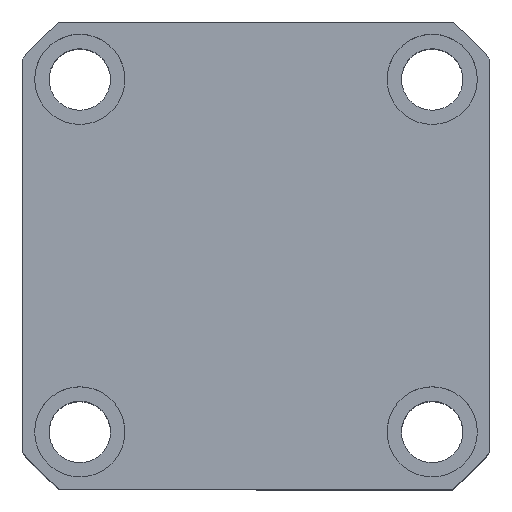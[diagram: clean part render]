
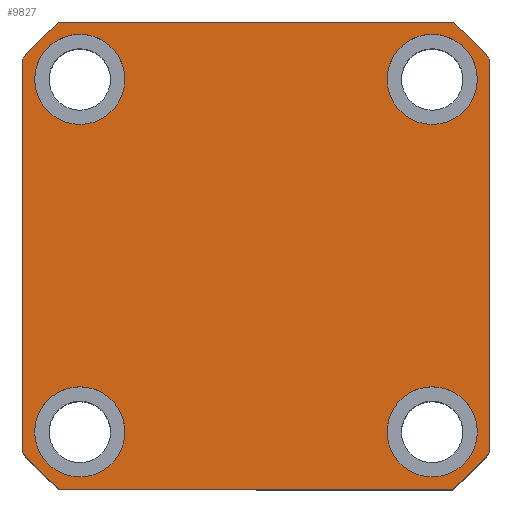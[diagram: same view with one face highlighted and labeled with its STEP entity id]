
A CAD part, top view. The second image highlights one B-rep face of the part: STEP entity #9827.
In plain terms, the highlighted planar face has unit normal (0, 0, 1) as drawn and (0, 0, -1) by its records, which use the part's own axes.
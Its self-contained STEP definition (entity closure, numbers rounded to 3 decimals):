
#103 = EDGE_CURVE ( 'NONE', #14838, #3643, #11317, .T. ) ;
#271 = CIRCLE ( 'NONE', #6012, 11. ) ;
#281 = EDGE_CURVE ( 'NONE', #6183, #4465, #13711, .T. ) ;
#468 = CARTESIAN_POINT ( 'NONE',  ( -57., -57., 0. ) ) ;
#637 = CARTESIAN_POINT ( 'NONE',  ( 43., 43., 0. ) ) ;
#711 = EDGE_CURVE ( 'NONE', #3643, #14838, #3639, .T. ) ;
#1057 = EDGE_LOOP ( 'NONE', ( #10250, #9097 ) ) ;
#1118 = DIRECTION ( 'NONE',  ( 0., 1., 0. ) ) ;
#1142 = CARTESIAN_POINT ( 'NONE',  ( 0., 0., 0. ) ) ;
#1176 = CARTESIAN_POINT ( 'NONE',  ( 57., -47.971, 0. ) ) ;
#1330 = VERTEX_POINT ( 'NONE', #3490 ) ;
#1469 = AXIS2_PLACEMENT_3D ( 'NONE', #8664, #2829, #11055 ) ;
#1606 = AXIS2_PLACEMENT_3D ( 'NONE', #2509, #10730, #3694 ) ;
#1648 = PLANE ( 'NONE',  #1469 ) ;
#1816 = AXIS2_PLACEMENT_3D ( 'NONE', #637, #8878, #1829 ) ;
#1829 = DIRECTION ( 'NONE',  ( -1., 0., 0. ) ) ;
#1845 = FACE_BOUND ( 'NONE', #11732, .T. ) ;
#1908 = VERTEX_POINT ( 'NONE', #8268 ) ;
#1940 = LINE ( 'NONE', #468, #14101 ) ;
#2289 = VERTEX_POINT ( 'NONE', #2360 ) ;
#2304 = CARTESIAN_POINT ( 'NONE',  ( 57., 57., 0. ) ) ;
#2332 = DIRECTION ( 'NONE',  ( 1., 0., 0. ) ) ;
#2360 = CARTESIAN_POINT ( 'NONE',  ( 54., -43., 0. ) ) ;
#2509 = CARTESIAN_POINT ( 'NONE',  ( 0., 0., 0. ) ) ;
#2516 = EDGE_CURVE ( 'NONE', #2289, #4915, #10035, .T. ) ;
#2772 = EDGE_CURVE ( 'NONE', #4915, #2289, #271, .T. ) ;
#2829 = DIRECTION ( 'NONE',  ( 0., 0., 1. ) ) ;
#2867 = CIRCLE ( 'NONE', #3760, 74.5 ) ;
#2953 = DIRECTION ( 'NONE',  ( 1., 0., 0. ) ) ;
#3045 = ORIENTED_EDGE ( 'NONE', *, *, #10835, .F. ) ;
#3185 = CIRCLE ( 'NONE', #3355, 11. ) ;
#3355 = AXIS2_PLACEMENT_3D ( 'NONE', #6967, #15183, #8158 ) ;
#3490 = CARTESIAN_POINT ( 'NONE',  ( 32., 43., 0. ) ) ;
#3600 = CIRCLE ( 'NONE', #1816, 11. ) ;
#3639 = CIRCLE ( 'NONE', #11367, 11. ) ;
#3643 = VERTEX_POINT ( 'NONE', #14434 ) ;
#3652 = AXIS2_PLACEMENT_3D ( 'NONE', #12128, #5093, #13318 ) ;
#3694 = DIRECTION ( 'NONE',  ( 1., 0., 0. ) ) ;
#3760 = AXIS2_PLACEMENT_3D ( 'NONE', #1142, #9385, #2332 ) ;
#4117 = CARTESIAN_POINT ( 'NONE',  ( -32., 43., 0. ) ) ;
#4131 = CARTESIAN_POINT ( 'NONE',  ( -57., 57., 0. ) ) ;
#4269 = EDGE_CURVE ( 'NONE', #13568, #8771, #12027, .T. ) ;
#4384 = ORIENTED_EDGE ( 'NONE', *, *, #14586, .F. ) ;
#4465 = VERTEX_POINT ( 'NONE', #9705 ) ;
#4508 = ORIENTED_EDGE ( 'NONE', *, *, #4269, .F. ) ;
#4587 = AXIS2_PLACEMENT_3D ( 'NONE', #12271, #5233, #13462 ) ;
#4655 = DIRECTION ( 'NONE',  ( 0., 0., 1. ) ) ;
#4754 = ORIENTED_EDGE ( 'NONE', *, *, #9246, .F. ) ;
#4843 = CARTESIAN_POINT ( 'NONE',  ( -43., 43., 0. ) ) ;
#4849 = EDGE_CURVE ( 'NONE', #7813, #8046, #1940, .T. ) ;
#4877 = CIRCLE ( 'NONE', #15252, 11. ) ;
#4882 = CARTESIAN_POINT ( 'NONE',  ( -43., -43., 0. ) ) ;
#4915 = VERTEX_POINT ( 'NONE', #11227 ) ;
#4984 = FACE_BOUND ( 'NONE', #6760, .T. ) ;
#5093 = DIRECTION ( 'NONE',  ( 0., 0., -1. ) ) ;
#5233 = DIRECTION ( 'NONE',  ( 0., 0., -1. ) ) ;
#5349 = FACE_BOUND ( 'NONE', #14457, .T. ) ;
#5471 = DIRECTION ( 'NONE',  ( 0., 0., -1. ) ) ;
#5493 = ORIENTED_EDGE ( 'NONE', *, *, #4849, .F. ) ;
#5571 = EDGE_CURVE ( 'NONE', #8046, #13568, #13901, .T. ) ;
#5807 = VECTOR ( 'NONE', #1118, 1000. ) ;
#6012 = AXIS2_PLACEMENT_3D ( 'NONE', #12505, #5471, #13679 ) ;
#6034 = DIRECTION ( 'NONE',  ( -1., 0., 0. ) ) ;
#6072 = DIRECTION ( 'NONE',  ( -1., 0., 0. ) ) ;
#6183 = VERTEX_POINT ( 'NONE', #9598 ) ;
#6212 = DIRECTION ( 'NONE',  ( 0., 0., -1. ) ) ;
#6428 = EDGE_CURVE ( 'NONE', #1330, #13332, #3600, .T. ) ;
#6627 = DIRECTION ( 'NONE',  ( -1., 0., 0. ) ) ;
#6760 = EDGE_LOOP ( 'NONE', ( #11906, #11717 ) ) ;
#6836 = CIRCLE ( 'NONE', #11417, 74.5 ) ;
#6864 = EDGE_CURVE ( 'NONE', #13332, #1330, #4877, .T. ) ;
#6967 = CARTESIAN_POINT ( 'NONE',  ( -43., 43., 0. ) ) ;
#6971 = CARTESIAN_POINT ( 'NONE',  ( 47.971, -57., 0. ) ) ;
#7050 = DIRECTION ( 'NONE',  ( 0., 0., 1. ) ) ;
#7054 = CARTESIAN_POINT ( 'NONE',  ( -54., 43., 0. ) ) ;
#7651 = ORIENTED_EDGE ( 'NONE', *, *, #11745, .F. ) ;
#7667 = ORIENTED_EDGE ( 'NONE', *, *, #5571, .F. ) ;
#7699 = AXIS2_PLACEMENT_3D ( 'NONE', #4843, #13082, #6034 ) ;
#7813 = VERTEX_POINT ( 'NONE', #8963 ) ;
#7822 = CARTESIAN_POINT ( 'NONE',  ( -57., 57., 0. ) ) ;
#8046 = VERTEX_POINT ( 'NONE', #6971 ) ;
#8158 = DIRECTION ( 'NONE',  ( -1., 0., 0. ) ) ;
#8268 = CARTESIAN_POINT ( 'NONE',  ( -57., -47.971, 0. ) ) ;
#8644 = CIRCLE ( 'NONE', #7699, 11. ) ;
#8664 = CARTESIAN_POINT ( 'NONE',  ( 0., 0., 0. ) ) ;
#8746 = EDGE_LOOP ( 'NONE', ( #4384, #4508, #7667, #5493, #14617, #13305, #3045, #9870 ) ) ;
#8771 = VERTEX_POINT ( 'NONE', #11919 ) ;
#8878 = DIRECTION ( 'NONE',  ( 0., 0., -1. ) ) ;
#8963 = CARTESIAN_POINT ( 'NONE',  ( -47.971, -57., 0. ) ) ;
#9097 = ORIENTED_EDGE ( 'NONE', *, *, #2516, .F. ) ;
#9246 = EDGE_CURVE ( 'NONE', #12791, #13510, #3185, .T. ) ;
#9385 = DIRECTION ( 'NONE',  ( 0., 0., 1. ) ) ;
#9526 = LINE ( 'NONE', #4131, #15034 ) ;
#9598 = CARTESIAN_POINT ( 'NONE',  ( 47.971, 57., 0. ) ) ;
#9705 = CARTESIAN_POINT ( 'NONE',  ( -47.971, 57., 0. ) ) ;
#9827 = ADVANCED_FACE ( 'NONE', ( #4984, #11223, #5349, #1845, #14014 ), #1648, .F. ) ;
#9870 = ORIENTED_EDGE ( 'NONE', *, *, #281, .F. ) ;
#10006 = DIRECTION ( 'NONE',  ( 0., -1., 0. ) ) ;
#10035 = CIRCLE ( 'NONE', #3652, 11. ) ;
#10043 = ORIENTED_EDGE ( 'NONE', *, *, #6864, .F. ) ;
#10250 = ORIENTED_EDGE ( 'NONE', *, *, #2772, .F. ) ;
#10612 = VECTOR ( 'NONE', #6627, 1000. ) ;
#10730 = DIRECTION ( 'NONE',  ( 0., 0., 1. ) ) ;
#10835 = EDGE_CURVE ( 'NONE', #4465, #11517, #6836, .T. ) ;
#11055 = DIRECTION ( 'NONE',  ( 1., 0., 0. ) ) ;
#11223 = FACE_BOUND ( 'NONE', #1057, .T. ) ;
#11227 = CARTESIAN_POINT ( 'NONE',  ( 32., -43., 0. ) ) ;
#11317 = CIRCLE ( 'NONE', #4587, 11. ) ;
#11355 = CARTESIAN_POINT ( 'NONE',  ( -57., 47.971, 0. ) ) ;
#11367 = AXIS2_PLACEMENT_3D ( 'NONE', #4882, #13113, #6072 ) ;
#11417 = AXIS2_PLACEMENT_3D ( 'NONE', #11688, #4655, #12891 ) ;
#11517 = VERTEX_POINT ( 'NONE', #11355 ) ;
#11577 = EDGE_CURVE ( 'NONE', #1908, #7813, #2867, .T. ) ;
#11688 = CARTESIAN_POINT ( 'NONE',  ( 0., 0., 0. ) ) ;
#11717 = ORIENTED_EDGE ( 'NONE', *, *, #103, .F. ) ;
#11732 = EDGE_LOOP ( 'NONE', ( #7651, #4754 ) ) ;
#11745 = EDGE_CURVE ( 'NONE', #13510, #12791, #8644, .T. ) ;
#11906 = ORIENTED_EDGE ( 'NONE', *, *, #711, .F. ) ;
#11919 = CARTESIAN_POINT ( 'NONE',  ( 57., 47.971, 0. ) ) ;
#11956 = CARTESIAN_POINT ( 'NONE',  ( -32., -43., 0. ) ) ;
#12027 = LINE ( 'NONE', #2304, #5807 ) ;
#12050 = ORIENTED_EDGE ( 'NONE', *, *, #6428, .F. ) ;
#12065 = CIRCLE ( 'NONE', #12946, 74.5 ) ;
#12128 = CARTESIAN_POINT ( 'NONE',  ( 43., -43., 0. ) ) ;
#12271 = CARTESIAN_POINT ( 'NONE',  ( -43., -43., 0. ) ) ;
#12505 = CARTESIAN_POINT ( 'NONE',  ( 43., -43., 0. ) ) ;
#12791 = VERTEX_POINT ( 'NONE', #4117 ) ;
#12891 = DIRECTION ( 'NONE',  ( 1., 0., 0. ) ) ;
#12946 = AXIS2_PLACEMENT_3D ( 'NONE', #14079, #7050, #15273 ) ;
#13082 = DIRECTION ( 'NONE',  ( 0., 0., -1. ) ) ;
#13113 = DIRECTION ( 'NONE',  ( 0., 0., -1. ) ) ;
#13254 = CARTESIAN_POINT ( 'NONE',  ( 43., 43., 0. ) ) ;
#13305 = ORIENTED_EDGE ( 'NONE', *, *, #15106, .F. ) ;
#13318 = DIRECTION ( 'NONE',  ( -1., 0., 0. ) ) ;
#13332 = VERTEX_POINT ( 'NONE', #13826 ) ;
#13462 = DIRECTION ( 'NONE',  ( -1., 0., 0. ) ) ;
#13510 = VERTEX_POINT ( 'NONE', #7054 ) ;
#13568 = VERTEX_POINT ( 'NONE', #1176 ) ;
#13679 = DIRECTION ( 'NONE',  ( -1., 0., 0. ) ) ;
#13711 = LINE ( 'NONE', #7822, #10612 ) ;
#13826 = CARTESIAN_POINT ( 'NONE',  ( 54., 43., 0. ) ) ;
#13901 = CIRCLE ( 'NONE', #1606, 74.5 ) ;
#14014 = FACE_OUTER_BOUND ( 'NONE', #8746, .T. ) ;
#14079 = CARTESIAN_POINT ( 'NONE',  ( 0., 0., 0. ) ) ;
#14101 = VECTOR ( 'NONE', #2953, 1000. ) ;
#14433 = DIRECTION ( 'NONE',  ( -1., 0., 0. ) ) ;
#14434 = CARTESIAN_POINT ( 'NONE',  ( -54., -43., 0. ) ) ;
#14457 = EDGE_LOOP ( 'NONE', ( #12050, #10043 ) ) ;
#14586 = EDGE_CURVE ( 'NONE', #8771, #6183, #12065, .T. ) ;
#14617 = ORIENTED_EDGE ( 'NONE', *, *, #11577, .F. ) ;
#14838 = VERTEX_POINT ( 'NONE', #11956 ) ;
#15034 = VECTOR ( 'NONE', #10006, 1000. ) ;
#15106 = EDGE_CURVE ( 'NONE', #11517, #1908, #9526, .T. ) ;
#15183 = DIRECTION ( 'NONE',  ( 0., 0., -1. ) ) ;
#15252 = AXIS2_PLACEMENT_3D ( 'NONE', #13254, #6212, #14433 ) ;
#15273 = DIRECTION ( 'NONE',  ( 1., 0., 0. ) ) ;
